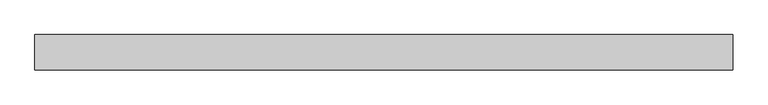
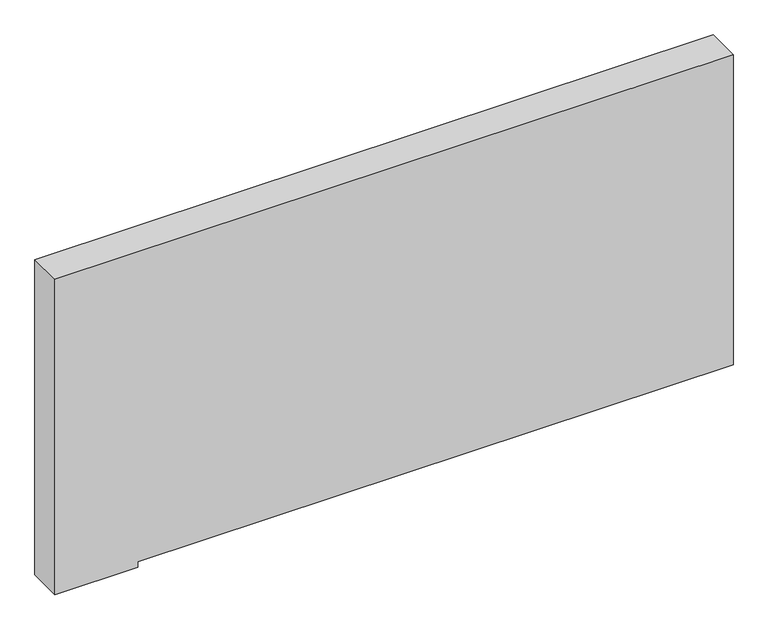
"""IFC4 building model written with IfcOpenShell, lengths in millimetres: plate geometry, Системная панель : Алюкобонд серый."""

from ifc_helpers import new_model, si_unit, frame, origin, place, context, project, spatial, polyline, outline, extrude, source, transform, mapped, element, save


def plate_c0eaacf9(model_context):
    return source(origin(), model_context, "Body", "SweptSolid", [
        extrude(outline(polyline([(0.0, -590.0), (0.0, -446.1161582), (10.0, -446.1161582), (10.0, 590.0), (580.0, 590.0), (580.0, -590.0), (0.0, -590.0)])), frame((0.0, -10.5, 0.0), z_axis=(0.0, 1.0, 0.0), x_axis=(0.0, 0.0, 1.0)), (0.0, 0.0, 1.0), 60.0),
    ])


if __name__ == "__main__":
    model = new_model("IFC4")
    model_context = context("Model", 3, world=origin())
    ifc_project = project(units=[si_unit("LENGTHUNIT", "METRE", prefix="MILLI")], contexts=[model_context])
    site = spatial("IfcSite", under=ifc_project)
    building = spatial("IfcBuilding", under=site)
    placement = place(None, origin())
    plate_shape = plate_c0eaacf9(model_context)
    element("IfcPlate", 1, ObjectType="Системная панель : Алюкобонд серый", at=placement, inside=building, context=model_context, shape_type="MappedRepresentation", body=[
        mapped(plate_shape, transform((0.0, 0.0, 0.0), x_axis=(1.0, 0.0, 0.0), y_axis=(0.0, 1.0, 0.0), z_axis=(0.0, 0.0, 1.0))),
    ])
    save(model, "model.ifc")
